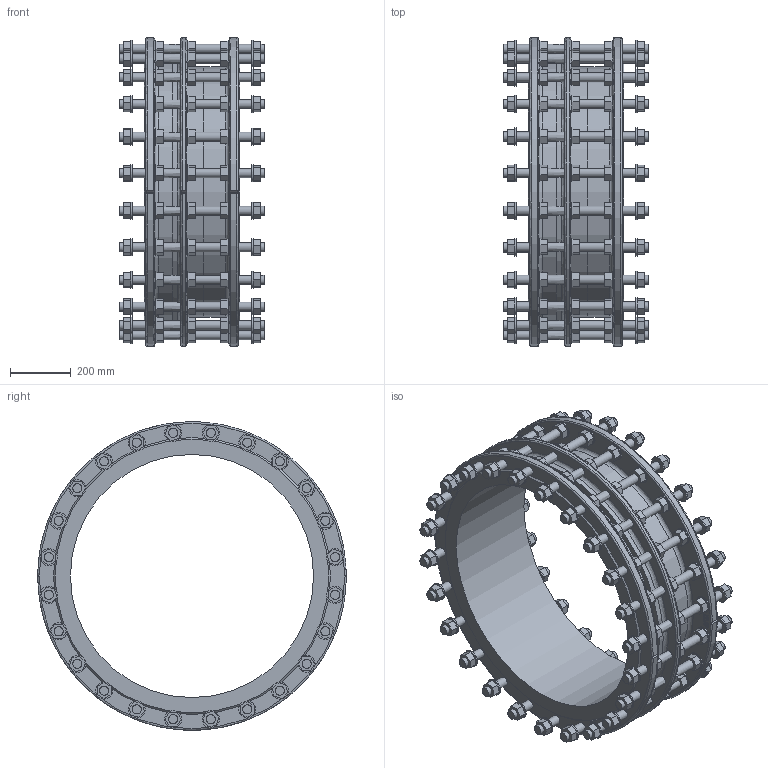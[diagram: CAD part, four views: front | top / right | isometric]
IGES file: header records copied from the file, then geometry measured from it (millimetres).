
Start section: SolidWorks IGES file using analytic representation for surfaces
Global section: file name: \\avksan2\techshare\PBM outline export from Enovia\O_265_911_DN800_0XXXXX01_L=315_REV01.igs; native system: SolidWorks 2022; preprocessor: SolidWorks 2022; author: pbm; date: 241212.092650; units: millimetre
Bounding box: 480 x 1014.97 x 1015 mm (x, y, z)
Surface area: 4412147.7 mm2 (no closed solid volume)
Topology: 0 solids, 0 shells, 1476 faces, 6729 edges, 6449 vertices
Faces by surface type: bspline 1188, revolution 288
